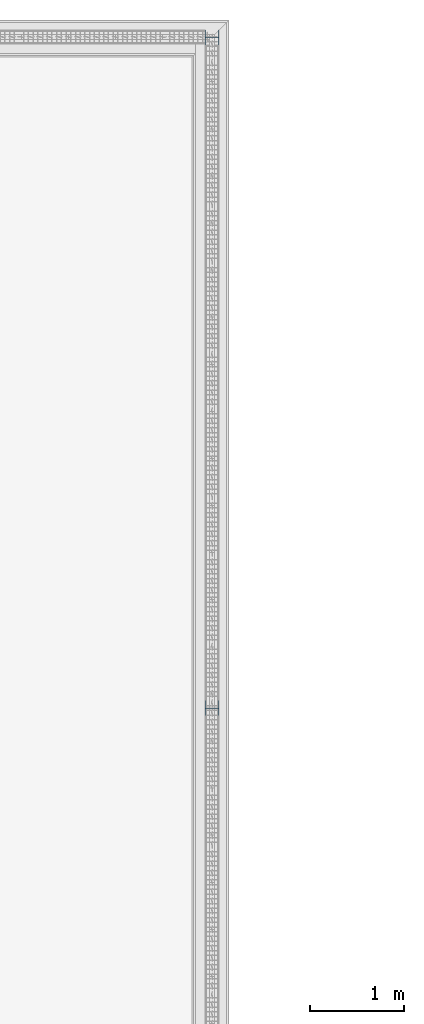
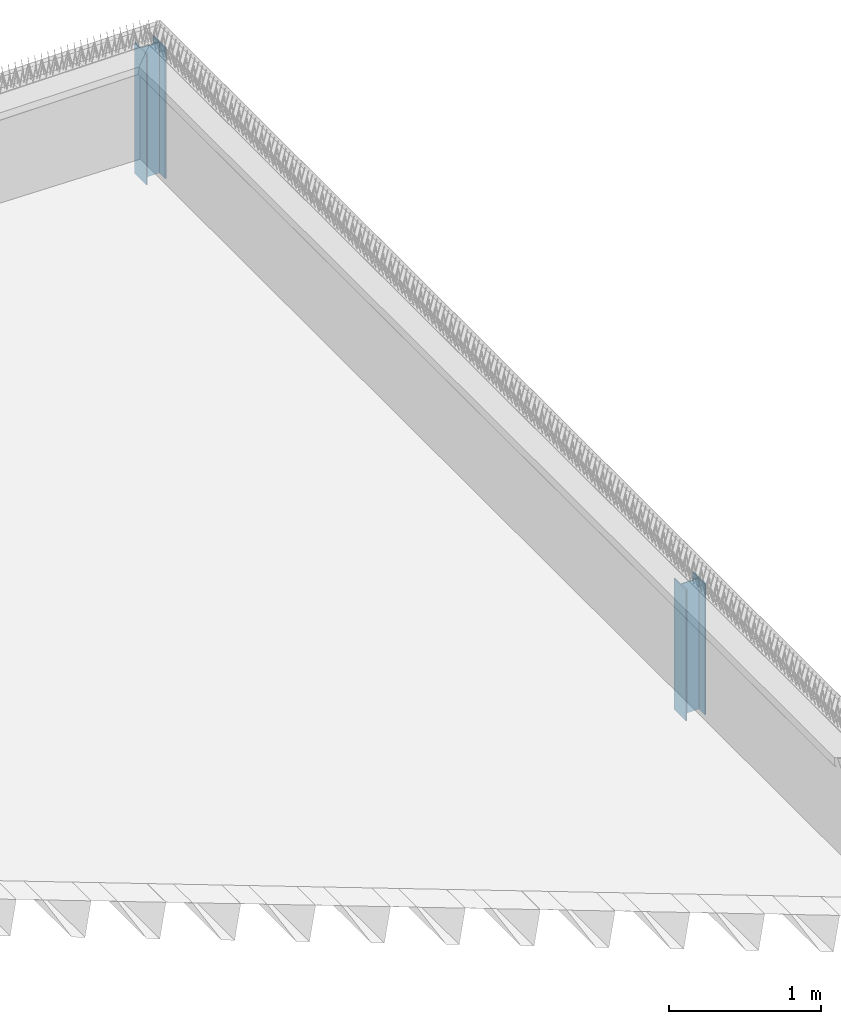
# One storey, part 17 of 81: 2 columns.
"""IFC2X3 building model written with IfcOpenShell, lengths in millimetres."""

import ifcopenshell
import ifcopenshell.guid

model = None  # the IFC model being written
_history = None  # IfcOwnerHistory: only IFC2X3 demands one
_inside = {}  # id of a spatial element -> (the spatial element, [elements in it])
_under = {}  # id of a project, library or spatial element -> (it, [spatial elements below it])
_declared = {}  # id of a project -> (the project, [libraries it declares])
_typed = {}  # id of a type object -> (the type object, [elements of that type])
_made_of = {}  # id of a material, layer set ... -> (it, [elements and type objects made of it])


def new_model(schema):
    """Start an empty IFC model of exactly this schema.

    Asked for "IFC4X3", IfcOpenShell would pick the latest addendum, in which some entities
    have other attributes; the version numbers below select the first issue.
    IFC2X3 requires an IfcOwnerHistory on every rooted entity: one is made here for all.
    """
    global model, _history
    if schema == "IFC4X3":
        model = ifcopenshell.file(schema_version=(4, 3, 0, 0))
    else:
        model = ifcopenshell.file(schema=schema)
    _inside.clear()
    _under.clear()
    _declared.clear()
    _typed.clear()
    _made_of.clear()
    _history = None
    if model.schema == "IFC2X3":
        org = make("IfcOrganization", Name="unknown")
        user = make(
            "IfcPersonAndOrganization",
            ThePerson=make("IfcPerson", FamilyName="unknown"),
            TheOrganization=org,
        )
        app = make(
            "IfcApplication",
            ApplicationDeveloper=org,
            Version="unknown",
            ApplicationFullName="unknown",
            ApplicationIdentifier="unknown",
        )
        _history = make(
            "IfcOwnerHistory",
            OwningUser=user,
            OwningApplication=app,
            ChangeAction="ADDED",
            CreationDate=0,
        )
    return model


def make(cls, **values):
    """One entity of the class cls with the attributes given. An attribute that is None is left unset."""
    return model.create_entity(
        cls, **{name: value for name, value in values.items() if value is not None}
    )


def entity(cls, *values):
    """Any entity or typed value of the class cls, its attributes in the order of the schema. None: left unset."""
    e = model.create_entity(cls)
    for i, value in enumerate(values):
        if value is not None:
            e[i] = value
    return e


def rooted(cls, **values):
    """An entity with a GlobalId (a new one), such as an element, a storey or a relation."""
    return make(cls, GlobalId=ifcopenshell.guid.new(), OwnerHistory=_history, **values)


def si_unit(unit_type, name, prefix=None):
    """IfcSIUnit, for example si_unit("LENGTHUNIT", "METRE", prefix="MILLI")."""
    return make("IfcSIUnit", UnitType=unit_type, Prefix=prefix, Name=name)


def converted_unit(unit_type, name, factor, base, dimensions=None, offset=None):
    """IfcConversionBasedUnit, such as the inch: factor (a typed value) times the base unit."""
    return make(
        "IfcConversionBasedUnit"
        if offset is None
        else "IfcConversionBasedUnitWithOffset",
        ConversionOffset=offset,
        Dimensions=None
        if dimensions is None
        else entity("IfcDimensionalExponents", *dimensions),
        UnitType=unit_type,
        Name=name,
        ConversionFactor=make(
            "IfcMeasureWithUnit", ValueComponent=factor, UnitComponent=base
        ),
    )


def derived_unit(unit_type, elements):
    """IfcDerivedUnit: a product of units, each with its exponent."""
    return make(
        "IfcDerivedUnit",
        Elements=[
            make("IfcDerivedUnitElement", Unit=unit, Exponent=power)
            for unit, power in elements
        ],
        UnitType=unit_type,
    )


def money_unit(currency):
    """IfcMonetaryUnit."""
    return make("IfcMonetaryUnit", Currency=currency)


def assignment(units):
    """IfcUnitAssignment: the units of a project."""
    return None if units is None else make("IfcUnitAssignment", Units=units)


def point(xyz):
    """IfcCartesianPoint."""
    return None if xyz is None else make("IfcCartesianPoint", Coordinates=xyz)


def direction(xyz):
    """IfcDirection."""
    return None if xyz is None else make("IfcDirection", DirectionRatios=xyz)


def frame(location, z_axis=None, x_axis=None):
    """IfcAxis2Placement3D, a coordinate frame: its origin and axes. An axis left out is left unset."""
    return make(
        "IfcAxis2Placement3D",
        Location=point(location),
        Axis=direction(z_axis),
        RefDirection=direction(x_axis),
    )


def origin_with_axes():
    """The frame at (0, 0, 0) with the z axis (0, 0, 1) and the x axis (1, 0, 0) written out."""
    return frame((0.0, 0.0, 0.0), z_axis=(0.0, 0.0, 1.0), x_axis=(1.0, 0.0, 0.0))


def place(relative_to, where):
    """IfcLocalPlacement: puts the frame where relative to a parent placement (None: the world)."""
    return make(
        "IfcLocalPlacement", PlacementRelTo=relative_to, RelativePlacement=where
    )


def context(
    kind, dimensions, precision=None, world=None, true_north=None, identifier=None
):
    """IfcGeometricRepresentationContext, for example the 3D "Model" context."""
    return make(
        "IfcGeometricRepresentationContext",
        ContextIdentifier=identifier,
        ContextType=kind,
        CoordinateSpaceDimension=dimensions,
        Precision=precision,
        WorldCoordinateSystem=world,
        TrueNorth=true_north,
    )


def subcontext(parent, identifier, kind, view, scale=None):
    """IfcGeometricRepresentationSubContext, for example "Body" below "Model"."""
    return make(
        "IfcGeometricRepresentationSubContext",
        ContextIdentifier=identifier,
        ContextType=kind,
        ParentContext=parent,
        TargetScale=scale,
        TargetView=view,
    )


def project(units=None, contexts=None):
    """IfcProject with its units and contexts."""
    return rooted(
        "IfcProject",
        Name="project",
        RepresentationContexts=contexts,
        UnitsInContext=assignment(units),
    )


def spatial(cls, under=None, at=None, **own):
    """A site, building, storey or space (cls), placed at a placement, below another one or the project."""
    s = rooted(cls, ObjectPlacement=at, **own)
    if under is not None:
        _under.setdefault(under.id(), (under, []))[1].append(s)
    return s


def faces_of(points, faces, orient=None, outer=None):
    """IfcFace entities. A face is a list of loops; a loop is a list of indices into points, from 0.

    orient and outer hold one flag for each loop. By default every Orientation is true, the
    first loop of a face is its IfcFaceOuterBound and the others are IfcFaceBound.
    """
    made = []
    for i, loops in enumerate(faces):
        bounds = []
        for j, loop in enumerate(loops):
            is_outer = j == 0 if outer is None else outer[i][j]
            bounds.append(
                make(
                    "IfcFaceOuterBound" if is_outer else "IfcFaceBound",
                    Bound=make("IfcPolyLoop", Polygon=[points[k] for k in loop]),
                    Orientation=True if orient is None else orient[i][j],
                )
            )
        made.append(make("IfcFace", Bounds=bounds))
    return made


def faceted_brep(points, faces, orient=None, outer=None, voids=None):
    """IfcFacetedBrep: a solid bounded by flat faces; with voids (closed shells), ...WithVoids."""
    shared = [point(p) for p in points]
    hull = make("IfcClosedShell", CfsFaces=faces_of(shared, faces, orient, outer))
    if voids is None:
        return make("IfcFacetedBrep", Outer=hull)
    return make(
        "IfcFacetedBrepWithVoids",
        Outer=hull,
        Voids=[
            make(cls, CfsFaces=faces_of(shared, fs, o, b)) for cls, fs, o, b in voids
        ],
    )


def shape(context_of_items, identifier, shape_type, items):
    """IfcShapeRepresentation: the items that make up one representation, for example the "Body"."""
    return make(
        "IfcShapeRepresentation",
        ContextOfItems=context_of_items,
        RepresentationIdentifier=identifier,
        RepresentationType=shape_type,
        Items=items,
    )


def material(Name=None, Category=None):
    """IfcMaterial."""
    return make("IfcMaterial", Name=Name, Category=Category)


def made_of(thing, what):
    """Note that an element or type object is made of a material, layer set ...; save() writes the relation."""
    if what is not None:
        _made_of.setdefault(what.id(), (what, []))[1].append(thing)
    return thing


def type_object(cls, material=None, **own):
    """A type object (cls), such as IfcWallType, which elements share."""
    return made_of(rooted(cls, **own), material)


def element(
    cls,
    number,
    at=None,
    inside=None,
    cuts=None,
    type_object=None,
    material=None,
    context=None,
    identifier="Body",
    shape_type=None,
    held_by="IfcProductDefinitionShape",
    body=None,
    shapes=None,
    **own,
):
    """One element of the class cls, such as IfcWall. Its Tag is "e" and its number.

    at: its placement. inside: the storey or other place that contains it. cuts: it is an
    opening in that element (IfcRelVoidsElement). A single representation is given by context,
    identifier, shape_type and body (its items); several are given by shapes. held_by: the class
    of the entity that holds the representations. save() writes the other relations.
    """
    e = rooted(cls, Tag="e%d" % number, ObjectPlacement=at, **own)
    if body is not None:
        shapes = [shape(context, identifier, shape_type, body)]
    if shapes is not None:
        e.Representation = make(held_by, Representations=shapes)
    if inside is not None:
        _inside.setdefault(inside.id(), (inside, []))[1].append(e)
    if cuts is not None:
        rooted(
            "IfcRelVoidsElement", RelatingBuildingElement=cuts, RelatedOpeningElement=e
        )
    if type_object is not None:
        _typed.setdefault(type_object.id(), (type_object, []))[1].append(e)
    return made_of(e, material)


def aggregate(whole, parts):
    """IfcRelAggregates: a whole, such as a stair, and the parts it consists of."""
    return rooted("IfcRelAggregates", RelatingObject=whole, RelatedObjects=parts)


def save(model, path):
    """Write the relations noted so far, then the file.

    IfcRelAggregates (storeys below a building ...), IfcRelContainedInSpatialStructure (elements
    in a storey), IfcRelDefinesByType, IfcRelAssociatesMaterial and IfcRelDeclares: one each for
    every whole, place, type object, material and project.
    """
    for whole, parts in _under.values():
        aggregate(whole, parts)
    for where, things in _inside.values():
        rooted(
            "IfcRelContainedInSpatialStructure",
            RelatedElements=things,
            RelatingStructure=where,
        )
    for kind, things in _typed.values():
        rooted("IfcRelDefinesByType", RelatedObjects=things, RelatingType=kind)
    for what, things in _made_of.values():
        rooted("IfcRelAssociatesMaterial", RelatedObjects=things, RelatingMaterial=what)
    for by, libraries in _declared.values():
        rooted("IfcRelDeclares", RelatingContext=by, RelatedDefinitions=libraries)
    model.write(path)


model = new_model("IFC2X3")

# Units and contexts
model_context = context("Model", 3, precision=0.01, world=origin_with_axes(), true_north=direction((0.0, 1.0)))
body_context = subcontext(model_context, "Body", "Model", "MODEL_VIEW")
ifc_project = project(units=[si_unit("LENGTHUNIT", "METRE", prefix="MILLI"), si_unit("AREAUNIT", "SQUARE_METRE"), si_unit("VOLUMEUNIT", "CUBIC_METRE"), converted_unit("PLANEANGLEUNIT", "DEGREE", entity("IfcPlaneAngleMeasure", 0.0174532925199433), si_unit("PLANEANGLEUNIT", "RADIAN"), dimensions=[0, 0, 0, 0, 0, 0, 0]), money_unit("EUR"), converted_unit("TIMEUNIT", "Year", entity("IfcTimeMeasure", 31557600.0), si_unit("TIMEUNIT", "SECOND"), dimensions=[0, 0, 1, 0, 0, 0, 0]), si_unit("MASSUNIT", "GRAM", prefix="KILO"), si_unit("THERMODYNAMICTEMPERATUREUNIT", "DEGREE_CELSIUS"), si_unit("LUMINOUSINTENSITYUNIT", "LUMEN"), si_unit("ENERGYUNIT", "JOULE", prefix="MEGA"), derived_unit("THERMALCONDUCTANCEUNIT", [(si_unit("POWERUNIT", "WATT"), 1), (si_unit("LENGTHUNIT", "METRE"), -1), (si_unit("THERMODYNAMICTEMPERATUREUNIT", "KELVIN"), -1)]), derived_unit("SPECIFICHEATCAPACITYUNIT", [(si_unit("ENERGYUNIT", "JOULE"), 1), (si_unit("MASSUNIT", "GRAM", prefix="KILO"), -1), (si_unit("THERMODYNAMICTEMPERATUREUNIT", "KELVIN"), -1)]), derived_unit("MASSDENSITYUNIT", [(si_unit("MASSUNIT", "GRAM", prefix="KILO"), 1), (si_unit("VOLUMEUNIT", "CUBIC_METRE"), -1)])], contexts=[model_context])

# Site, building, storey
site_placement = place(None, origin_with_axes())
site = spatial("IfcSite", under=ifc_project, at=site_placement, Name="Site", CompositionType="ELEMENT")
building_placement = place(site_placement, origin_with_axes())
building = spatial("IfcBuilding", under=site, at=building_placement, Name="Naam gebouw", CompositionType="ELEMENT")
storey_placement = place(building_placement, frame((0.0, 0.0, 15320.0), z_axis=(0.0, 0.0, 1.0), x_axis=(1.0, 0.0, 0.0)))
storey = spatial("IfcBuildingStorey", under=building, at=storey_placement, Name="01 dak", CompositionType="ELEMENT", Elevation=15320.0)

# Columns
ifc_material = material(Name="Metaal - Staal C")
column_type = type_object("IfcColumnType", Name="HEA160 160 x 152", PredefinedType="COLUMN")
for number, where, z_axis, x_axis, name in (
    (1, (126824.0, 112400.0, -400.0393597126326), (0.0, 0.0, 1.0), (0.0, -1.0, 0.0), "HEA160"),
    (2, (126823.9999999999, 119520.0, -400.0393597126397), (0.0, 0.0, 1.0), (0.0, -1.0, 0.0), "HEA160"),
):
    element("IfcColumn", number, at=place(storey_placement, frame(where, z_axis=z_axis, x_axis=x_axis)), inside=storey, type_object=column_type, material=ifc_material, Name=name, ObjectType="COLUMN", context=body_context, shape_type="Brep", body=[
        faceted_brep([(-79.9999999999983, 75.9999999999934, 1055.0), (-79.9999999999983, 75.9999999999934, 0.0), (-79.9999999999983, 66.99999999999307, 0.0), (-79.9999999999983, 66.99999999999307, 1055.0), (79.9999999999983, 75.9999999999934, 1055.0), (79.9999999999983, 75.9999999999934, 0.0), (79.9999999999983, 66.99999999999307, 0.0), (3.000000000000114, 66.99999999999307, 0.0), (3.000000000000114, -66.99999999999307, 0.0), (79.9999999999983, -66.99999999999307, 0.0), (79.9999999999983, -75.9999999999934, 0.0), (-79.9999999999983, -75.9999999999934, 0.0), (-79.9999999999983, -66.99999999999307, 0.0), (-3.000000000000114, -66.99999999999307, 0.0), (-3.000000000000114, 66.99999999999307, 0.0), (-3.000000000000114, 66.99999999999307, 1055.0), (-3.000000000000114, -66.99999999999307, 1055.0), (-79.9999999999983, -66.99999999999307, 1055.0), (-79.9999999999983, -75.9999999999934, 1055.0), (79.9999999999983, -75.9999999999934, 1055.0), (79.9999999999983, -66.99999999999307, 1055.0), (3.000000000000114, -66.99999999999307, 1055.0), (3.000000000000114, 66.99999999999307, 1055.0), (79.9999999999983, 66.99999999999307, 1055.0)], [[[0, 1, 2, 3]], [[4, 5, 1, 0]], [[2, 1, 5, 6, 7, 8, 9, 10, 11, 12, 13, 14]], [[3, 2, 14, 15]], [[4, 0, 3, 15, 16, 17, 18, 19, 20, 21, 22, 23]], [[23, 6, 5, 4]], [[22, 7, 6, 23]], [[21, 8, 7, 22]], [[20, 9, 8, 21]], [[19, 10, 9, 20]], [[18, 11, 10, 19]], [[17, 12, 11, 18]], [[16, 13, 12, 17]], [[15, 14, 13, 16]]]),
    ])

save(model, "model.ifc")
